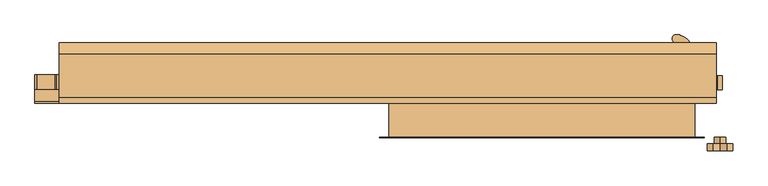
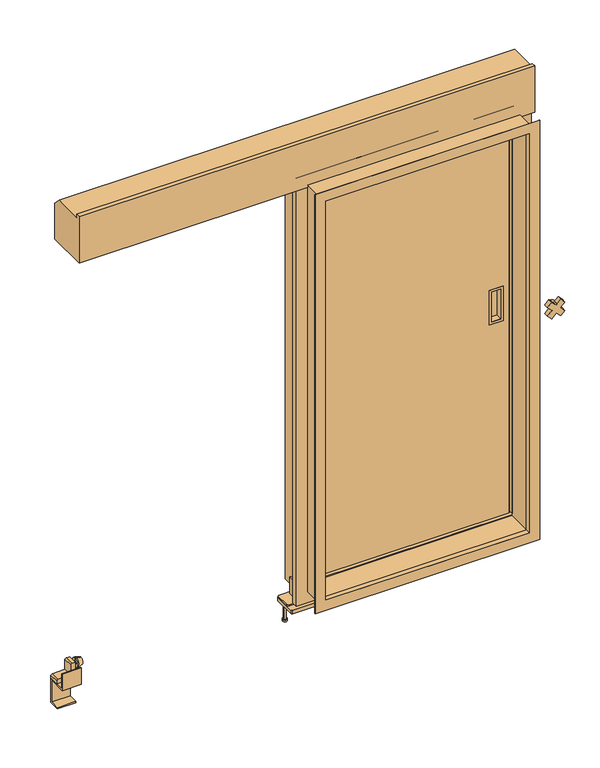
"""IFC4 building model written with IfcOpenShell, lengths in millimetres: door geometry, 冷凍_片引きスライドドア4方_手動 : W870xH1800xt100."""

from ifc_helpers import new_model, si_unit, point, frame, frame_2d, origin, place, context, project, spatial, polyline, circle_curve, trimmed, segment, composite_curve, outline, extrude, faceted_brep, source, transform, mapped, element, save
from ifc_brep_helpers import plane_surface, cylinder_surface, revolved_surface, advanced_brep


def door_233bc4a3(model_context):
    return source(origin(), model_context, "Body", "SolidModel", [
        faceted_brep([(470.0, 185.5, 1835.0), (-470.0, 185.5, 1835.0), (-470.0, 96.5, 1835.0), (470.0, 96.5, 1835.0), (470.0, 185.5, -35.0), (470.0, 96.5, -35.0), (-470.0, 96.5, -35.0), (-470.0, 185.5, -35.0), (-425.0, 96.5, 1790.0), (425.0, 96.5, 1790.0), (425.0, 96.5, 10.0), (-425.0, 96.5, 10.0), (-425.0, 85.5, 1790.0), (425.0, 85.5, 1790.0), (425.0, 85.5, 10.0), (-425.0, 85.5, 10.0), (350.500035, 85.5, 1033.0), (390.500035, 85.5, 1033.0), (390.500035, 85.5, 897.0), (350.500035, 85.5, 897.0), (350.500035, 113.5, 1033.0), (390.500035, 113.5, 1033.0), (350.500035, 113.5, 897.0), (390.500035, 113.5, 897.0)], [[[0, 1, 2, 3]], [[4, 5, 6, 7]], [[1, 0, 4, 7]], [[2, 1, 7, 6]], [[3, 2, 6, 5], [8, 9, 10, 11]], [[0, 3, 5, 4]], [[8, 12, 13, 9]], [[10, 14, 15, 11]], [[12, 8, 11, 15]], [[13, 12, 15, 14], [16, 17, 18, 19]], [[9, 13, 14, 10]], [[20, 21, 17, 16]], [[20, 16, 19, 22]], [[22, 19, 18, 23]], [[17, 21, 23, 18]], [[21, 20, 22, 23]]]),
        extrude(outline(polyline([(1042.0, 399.500035), (1042.0, 341.500035), (888.0, 341.500035), (888.0, 399.500035), (1042.0, 399.500035)]), holes=[polyline([(897.0, 390.500035), (897.0, 350.500035), (1033.0, 350.500035), (1033.0, 390.500035), (897.0, 390.500035)])]), frame((0.0, 83.499995, 0.0), z_axis=(0.0, 1.0, 0.0), x_axis=(0.0, 0.0, 1.0)), (0.0, 0.0, 1.0), 2.000005),
        extrude(outline(polyline([(101.49997, -69.99999), (89.49997, -57.99999), (89.49997, 5.00001), (139.5, 5.00001), (139.5, -69.99999), (101.49997, -69.99999)])), frame((-476.0, 0.0, 0.0), z_axis=(1.0, 0.0, 0.0), x_axis=(0.0, 1.0, 0.0)), (0.0, 0.0, 1.0), 6.0),
        extrude(outline(polyline([(101.5, -69.99999), (89.5, -57.99999), (89.5, 5.00001), (139.5, 5.00001), (139.5, -69.99999), (101.5, -69.99999)])), frame((470.0, 0.0, 0.0), z_axis=(1.0, 0.0, 0.0), x_axis=(0.0, 1.0, 0.0)), (0.0, 0.0, 1.0), 6.0),
        extrude(outline(polyline([(470.0, 131.50003), (470.0, 96.5), (-470.0, 96.5), (-470.0, 131.50003), (470.0, 131.50003)])), frame((0.0, 0.0, -69.99999), z_axis=(0.0, 0.0, 1.0), x_axis=(1.0, 0.0, 0.0)), (0.0, 0.0, 1.0), 34.99999),
        extrude(outline(polyline([(-462.9985861, 96.5), (462.9985861, 96.5), (462.9985861, 79.499345), (-462.9985861, 79.499345), (-462.9985861, 96.5)])), frame((0.0, 0.0, -25.0), z_axis=(0.0, 0.0, 1.0), x_axis=(1.0, 0.0, 0.0)), (0.0, 0.0, 1.0), 28.0),
        extrude(outline(polyline([(462.9985861, 77.0), (435.0014439, 77.0), (435.0014439, 96.5), (462.9985861, 96.5), (462.9985861, 77.0)])), frame((0.0, 0.0, 10.0), z_axis=(0.0, 0.0, 1.0), x_axis=(1.0, 0.0, 0.0)), (0.0, 0.0, 1.0), 1780.0),
        extrude(outline(polyline([(-462.9985861, 77.0), (-462.9985861, 96.5), (-435.0014439, 96.5), (-435.0014439, 77.0), (-462.9985861, 77.0)])), frame((0.0, 0.0, 10.0), z_axis=(0.0, 0.0, 1.0), x_axis=(1.0, 0.0, 0.0)), (0.0, 0.0, 1.0), 1780.0),
        extrude(outline(polyline([(462.9985861, 96.5), (462.9985861, 76.9116213), (-462.9985861, 76.9116213), (-462.9985861, 96.5), (462.9985861, 96.5)])), frame((0.0, 0.0, 1797.4986091), z_axis=(0.0, 0.0, 1.0), x_axis=(1.0, 0.0, 0.0)), (0.0, 0.0, 1.0), 28.0),
        extrude(outline(polyline([(-96.999374, 532.0), (-27.00937, 532.0), (-27.00229, 517.0), (-32.00275, 511.99999), (-77.00938, 511.99999), (-77.00689, 457.0), (-82.00735, 451.99999), (-97.00939, 451.99999), (-96.999374, 532.0)])), frame((0.0, 90.0, 0.0), z_axis=(0.0, 1.0, 0.0), x_axis=(0.0, 0.0, 1.0)), (0.0, 0.0, 1.0), 42.00225),
        extrude(outline(polyline([(1037.123106, 544.9454365), (1017.6776695, 525.5), (1037.123106, 506.0545635), (1019.4454365, 488.376894), (1000.0, 507.8223305), (980.5545635, 488.376894), (962.876894, 506.0545635), (982.3223305, 525.5), (962.876894, 544.9454365), (980.5545635, 562.623106), (1000.0, 543.1776695), (1019.4454365, 562.623106), (1037.123106, 544.9454365)])), frame((0.0, -90.0, 0.0), z_axis=(0.0, 1.0, 0.0), x_axis=(0.0, 0.0, 1.0)), (0.0, 0.0, 1.0), 20.0),
        extrude(outline(composite_curve([segment(trimmed(circle_curve(frame_2d((1000.0, 525.5)), 16.99999), [point((983.00001, 525.5))], [point((1016.99999, 525.5))], False, "CARTESIAN"), True, "CONTINUOUS"), segment(trimmed(circle_curve(frame_2d((1000.0, 525.5)), 16.99999), [point((1016.99999, 525.5))], [point((983.00001, 525.5))], False, "CARTESIAN"), True, "CONTINUOUS")], self_intersect=False)), frame((0.0, -70.0, 0.0), z_axis=(0.0, 1.0, 0.0), x_axis=(0.0, 0.0, 1.0)), (0.0, 0.0, 1.0), 20.0),
        advanced_brep(
        [(-1404.999995, 113.0, -58.99311), (-1404.999995, 113.0, -19.0), (-1404.999995, 113.0, -30.996555), (-1404.999995, 113.0, -46.996555), (-1400.999995, 113.0, -58.99311), (-1400.999995, 113.0, -19.0), (-1380.999995, 113.0, -53.9931073), (-1380.999995, 113.0, -24.0000027), (-1380.999995, 113.0, -38.996555), (-1416.99999, 113.0, -46.996555), (-1416.99999, 113.0, -30.996555), (-1416.99999, 113.0, -38.996555)],
        [
            (0, 1, circle_curve(frame((-1404.999995, 113.0, -38.996555), z_axis=(-1.0, 0.0, 0.0), x_axis=(0.0, 0.0, 1.0)), 19.996555)),
            (1, 2),
            (2, 3, circle_curve(frame((-1404.999995, 113.0, -38.996555), z_axis=(1.0, 0.0, 0.0), x_axis=(0.0, 0.0, 1.0)), 8.0)),
            (3, 0),
            (1, 0, circle_curve(frame((-1404.999995, 113.0, -38.996555), z_axis=(-1.0, 0.0, 0.0), x_axis=(0.0, 0.0, 1.0)), 19.996555)),
            (3, 2, circle_curve(frame((-1404.999995, 113.0, -38.996555), z_axis=(1.0, 0.0, 0.0), x_axis=(0.0, 0.0, 1.0)), 8.0)),
            (4, 5, circle_curve(frame((-1400.999995, 113.0, -38.996555), z_axis=(-1.0, 0.0, 0.0), x_axis=(0.0, 0.0, 1.0)), 19.996555)),
            (5, 1),
            (0, 4),
            (5, 4, circle_curve(frame((-1400.999995, 113.0, -38.996555), z_axis=(-1.0, 0.0, 0.0), x_axis=(0.0, 0.0, 1.0)), 19.996555)),
            (6, 7, circle_curve(frame((-1380.999995, 113.0, -38.996555), z_axis=(-1.0, 0.0, 0.0), x_axis=(0.0, 0.0, 1.0)), 14.9965523)),
            (7, 5),
            (4, 6),
            (7, 6, circle_curve(frame((-1380.999995, 113.0, -38.996555), z_axis=(-1.0, 0.0, 0.0), x_axis=(0.0, 0.0, 1.0)), 14.9965523)),
            (8, 7),
            (6, 8),
            (9, 10, circle_curve(frame((-1416.99999, 113.0, -38.996555), z_axis=(-1.0, 0.0, 0.0), x_axis=(0.0, 0.0, 1.0)), 8.0)),
            (10, 11),
            (11, 9),
            (10, 9, circle_curve(frame((-1416.99999, 113.0, -38.996555), z_axis=(-1.0, 0.0, 0.0), x_axis=(0.0, 0.0, 1.0)), 8.0)),
            (2, 10),
            (9, 3),
        ],
        [
            plane_surface(frame((-1404.999995, 113.0, -38.996555), z_axis=(-1.0, 0.0, 0.0), x_axis=(0.0, 0.0, 1.0))),
            cylinder_surface(frame((-1380.999995, 113.0, -38.996555), z_axis=(1.0, 0.0, 0.0), x_axis=(0.0, 0.0, 1.0)), 19.996555),
            revolved_surface(polyline([(-1400.999995, 113.0, -19.0), (-1380.999995, 113.0, -24.0000027)]), (-1380.999995, 113.0, -38.996555), (1.0, 0.0, 0.0)),
            plane_surface(frame((-1380.999995, 113.0, -38.996555), z_axis=(1.0, 0.0, 0.0), x_axis=(0.0, 0.0, 1.0))),
            plane_surface(frame((-1416.99999, 113.0, -38.996555), z_axis=(-1.0, 0.0, 0.0), x_axis=(0.0, 0.0, 1.0))),
            cylinder_surface(frame((-1380.999995, 113.0, -38.996555), z_axis=(1.0, 0.0, 0.0), x_axis=(0.0, 0.0, 1.0)), 8.0),
        ],
        [
            (0, [[1, 2, 3, 4]]),
            (0, [[5, -4, 6, -2]]),
            (1, [[7, 8, -1, 9]]),
            (1, [[10, -9, -5, -8]]),
            (2, [[11, 12, -7, 13]]),
            (2, [[14, -13, -10, -12]]),
            (3, [[15, -11, 16]]),
            (3, [[-16, -14, -15]]),
            (4, [[17, 18, 19]]),
            (4, [[20, -19, -18]]),
            (5, [[-3, 21, -17, 22]]),
            (5, [[-6, -22, -20, -21]]),
        ],
    ),
        extrude(outline(polyline([(-91.983954, -1416.99999), (-21.99395, -1416.99999), (-21.98687, -1431.99999), (-26.98733, -1437.0), (-71.99396, -1437.0), (-71.99147, -1491.99999), (-76.99193, -1497.0), (-91.99397, -1497.0), (-91.983954, -1416.99999)])), frame((0.0, 91.99775, 0.0), z_axis=(0.0, 1.0, 0.0), x_axis=(0.0, 0.0, 1.0)), (0.0, 0.0, 1.0), 42.00225),
        advanced_brep(
        [(499.999995, 111.0, -64.00853), (499.999995, 111.0, -24.01542), (499.999995, 111.0, -36.011975), (499.999995, 111.0, -52.011975), (495.999995, 111.0, -64.00853), (495.999995, 111.0, -24.01542), (475.999995, 111.0, -59.0085273), (475.999995, 111.0, -29.0154227), (475.999995, 111.0, -44.011975), (511.99999, 111.0, -52.011975), (511.99999, 111.0, -36.011975), (511.99999, 111.0, -44.011975)],
        [
            (0, 1, circle_curve(frame((499.999995, 111.0, -44.011975), z_axis=(1.0, 0.0, 0.0), x_axis=(0.0, 0.0, 1.0)), 19.996555)),
            (1, 2),
            (2, 3, circle_curve(frame((499.999995, 111.0, -44.011975), z_axis=(-1.0, 0.0, 0.0), x_axis=(0.0, 0.0, 1.0)), 8.0)),
            (3, 0),
            (1, 0, circle_curve(frame((499.999995, 111.0, -44.011975), z_axis=(1.0, 0.0, 0.0), x_axis=(0.0, 0.0, 1.0)), 19.996555)),
            (3, 2, circle_curve(frame((499.999995, 111.0, -44.011975), z_axis=(-1.0, 0.0, 0.0), x_axis=(0.0, 0.0, 1.0)), 8.0)),
            (4, 5, circle_curve(frame((495.999995, 111.0, -44.011975), z_axis=(1.0, 0.0, 0.0), x_axis=(0.0, 0.0, 1.0)), 19.996555)),
            (5, 1),
            (0, 4),
            (5, 4, circle_curve(frame((495.999995, 111.0, -44.011975), z_axis=(1.0, 0.0, 0.0), x_axis=(0.0, 0.0, 1.0)), 19.996555)),
            (6, 7, circle_curve(frame((475.999995, 111.0, -44.011975), z_axis=(1.0, 0.0, 0.0), x_axis=(0.0, 0.0, 1.0)), 14.9965523)),
            (7, 5),
            (4, 6),
            (7, 6, circle_curve(frame((475.999995, 111.0, -44.011975), z_axis=(1.0, 0.0, 0.0), x_axis=(0.0, 0.0, 1.0)), 14.9965523)),
            (8, 7),
            (6, 8),
            (9, 10, circle_curve(frame((511.99999, 111.0, -44.011975), z_axis=(1.0, 0.0, 0.0), x_axis=(0.0, 0.0, 1.0)), 8.0)),
            (10, 11),
            (11, 9),
            (10, 9, circle_curve(frame((511.99999, 111.0, -44.011975), z_axis=(1.0, 0.0, 0.0), x_axis=(0.0, 0.0, 1.0)), 8.0)),
            (2, 10),
            (9, 3),
        ],
        [
            plane_surface(frame((499.999995, 111.0, -44.011975), z_axis=(1.0, 0.0, 0.0), x_axis=(0.0, 0.0, 1.0))),
            cylinder_surface(frame((475.999995, 111.0, -44.011975), z_axis=(-1.0, 0.0, 0.0), x_axis=(0.0, 0.0, 1.0)), 19.996555),
            revolved_surface(polyline([(495.999995, 111.0, -24.01542), (475.999995, 111.0, -29.0154227)]), (475.999995, 111.0, -44.011975), (-1.0, 0.0, 0.0)),
            plane_surface(frame((475.999995, 111.0, -44.011975), z_axis=(-1.0, 0.0, 0.0), x_axis=(0.0, 0.0, 1.0))),
            plane_surface(frame((511.99999, 111.0, -44.011975), z_axis=(1.0, 0.0, 0.0), x_axis=(0.0, 0.0, 1.0))),
            cylinder_surface(frame((475.999995, 111.0, -44.011975), z_axis=(-1.0, 0.0, 0.0), x_axis=(0.0, 0.0, 1.0)), 8.0),
        ],
        [
            (0, [[1, 2, 3, 4]]),
            (0, [[5, -4, 6, -2]]),
            (1, [[7, 8, -1, 9]]),
            (1, [[10, -9, -5, -8]]),
            (2, [[11, 12, -7, 13]]),
            (2, [[14, -13, -10, -12]]),
            (3, [[15, -11, 16]]),
            (3, [[-16, -14, -15]]),
            (4, [[17, 18, 19]]),
            (4, [[20, -19, -18]]),
            (5, [[-3, 21, -17, 22]]),
            (5, [[-6, -22, -20, -21]]),
        ],
    ),
        extrude(outline(polyline([(228.5, 1968.0), (228.5, 1805.000385), (50.0, 1805.000385), (50.0, 2015.000355), (66.499875, 2015.000355), (66.499875, 2000.000305), (196.499695, 2000.000305), (228.5, 1968.0)])), frame((-1425.0, 0.0, 0.0), z_axis=(1.0, 0.0, 0.0), x_axis=(0.0, 1.0, 0.0)), (0.0, 0.0, 1.0), 1940.0),
        faceted_brep([(451.00103, 50.0, -16.00103), (451.00103, -50.0, -16.00103), (-451.00103, -50.0, -16.00103), (-451.00103, 50.0, -16.00103), (-451.00103, -50.0, 1816.00103), (-451.00103, 50.0, 1816.00103), (451.00103, -50.0, 1816.00103), (-435.0, -50.0, 1800.0), (435.0, -50.0, 1800.0), (435.0, -50.0, 0.0), (-435.0, -50.0, 0.0), (-500.0, 50.0, -65.0), (500.0, 50.0, -65.0), (500.0, 50.0, 1865.0), (-500.0, 50.0, 1865.0), (451.00103, 50.0, 1816.00103), (500.0, 77.0, -65.0), (-500.0, 77.0, -65.0), (-500.0, 77.0, 1865.0), (500.0, 77.0, 1865.0), (-435.0, 77.0, 0.0), (435.0, 77.0, 0.0), (435.0, 77.0, 1800.0), (-435.0, 77.0, 1800.0)], [[[0, 1, 2, 3]], [[3, 2, 4, 5]], [[2, 1, 6, 4], [7, 8, 9, 10]], [[11, 12, 13, 14], [5, 15, 0, 3]], [[16, 12, 11, 17]], [[17, 11, 14, 18]], [[18, 19, 16, 17], [20, 21, 22, 23]], [[9, 21, 20, 10]], [[10, 20, 23, 7]], [[15, 6, 1, 0]], [[19, 13, 12, 16]], [[8, 22, 21, 9]], [[5, 4, 6, 15]], [[18, 14, 13, 19]], [[7, 23, 22, 8]]]),
        faceted_brep([(479.0, -50.0, -44.0), (479.0, -51.2, -44.0), (-479.0, -51.2, -44.0), (-479.0, -50.0, -44.0), (-479.0, -51.2, 1844.0), (-479.0, -50.0, 1844.0), (479.0, -51.2, 1844.0), (-433.8, -51.2, 1798.8), (433.8, -51.2, 1798.8), (433.8, -51.2, 1.2), (-433.8, -51.2, 1.2), (479.0, -50.0, 1844.0), (-435.0, -50.0, 0.0), (435.0, -50.0, 0.0), (435.0, -50.0, 1800.0), (-435.0, -50.0, 1800.0), (435.0, -29.2, 0.0), (-435.0, -29.2, 0.0), (-435.0, -29.2, 1800.0), (435.0, -29.2, 1800.0), (-433.8, -29.2, 1.2), (433.8, -29.2, 1.2), (433.8, -29.2, 1798.8), (-433.8, -29.2, 1798.8)], [[[0, 1, 2, 3]], [[3, 2, 4, 5]], [[2, 1, 6, 4], [7, 8, 9, 10]], [[5, 11, 0, 3], [12, 13, 14, 15]], [[16, 13, 12, 17]], [[17, 12, 15, 18]], [[18, 19, 16, 17], [20, 21, 22, 23]], [[9, 21, 20, 10]], [[10, 20, 23, 7]], [[11, 6, 1, 0]], [[19, 14, 13, 16]], [[8, 22, 21, 9]], [[5, 4, 6, 11]], [[18, 15, 14, 19]], [[7, 23, 22, 8]]]),
        advanced_brep(
        [(408.6234406, 250.3571279, 745.0), (408.6234402, 230.6428419, 745.0), (404.50281, 229.499985, 745.0), (393.89726, 229.499985, 745.0), (389.7766295, 230.6428424, 745.0), (389.7766298, 250.3571281, 745.0), (393.89726, 251.499985, 745.0), (404.50281, 251.499985, 745.0), (408.6234406, 250.3571279, 1245.0), (408.6234402, 230.6428419, 1245.0), (404.50281, 229.499985, 1245.0), (393.89726, 229.499985, 1245.0), (389.7766295, 230.6428424, 1245.0), (389.7766298, 250.3571281, 1245.0), (393.89726, 251.499985, 1245.0), (404.50281, 251.499985, 1245.0)],
        [
            (0, 1, circle_curve(frame((402.700035, 240.499985, 745.0), z_axis=(0.0, 0.0, -1.0), x_axis=(0.0, -1.0, 0.0)), 11.5)),
            (1, 2, circle_curve(frame((404.50281, 237.499985, 745.0), z_axis=(0.0, 0.0, -1.0), x_axis=(0.0, -1.0, 0.0)), 8.0)),
            (2, 3),
            (3, 4, circle_curve(frame((393.89726, 237.499985, 745.0), z_axis=(0.0, 0.0, -1.0), x_axis=(0.0, -1.0, 0.0)), 8.0)),
            (4, 5, circle_curve(frame((395.700035, 240.499985, 745.0), z_axis=(0.0, 0.0, -1.0), x_axis=(0.0, -1.0, 0.0)), 11.5)),
            (5, 6, circle_curve(frame((393.89726, 243.499985, 745.0), z_axis=(0.0, 0.0, -1.0), x_axis=(0.0, -1.0, 0.0)), 8.0)),
            (6, 7),
            (7, 0, circle_curve(frame((404.50281, 243.499985, 745.0), z_axis=(0.0, 0.0, -1.0), x_axis=(0.0, -1.0, 0.0)), 8.0)),
            (8, 9, circle_curve(frame((402.700035, 240.499985, 1245.0), z_axis=(0.0, 0.0, -1.0), x_axis=(0.0, -1.0, 0.0)), 11.5)),
            (9, 1),
            (0, 8),
            (9, 10, circle_curve(frame((404.50281, 237.499985, 1245.0), z_axis=(0.0, 0.0, -1.0), x_axis=(0.0, -1.0, 0.0)), 8.0)),
            (10, 2),
            (10, 11),
            (11, 3),
            (11, 12, circle_curve(frame((393.89726, 237.499985, 1245.0), z_axis=(0.0, 0.0, -1.0), x_axis=(0.0, -1.0, 0.0)), 8.0)),
            (12, 4),
            (12, 13, circle_curve(frame((395.700035, 240.499985, 1245.0), z_axis=(0.0, 0.0, -1.0), x_axis=(0.0, -1.0, 0.0)), 11.5)),
            (13, 5),
            (13, 14, circle_curve(frame((393.89726, 243.499985, 1245.0), z_axis=(0.0, 0.0, -1.0), x_axis=(0.0, -1.0, 0.0)), 8.0)),
            (14, 6),
            (14, 15),
            (15, 7),
            (15, 8, circle_curve(frame((404.50281, 243.499985, 1245.0), z_axis=(0.0, 0.0, -1.0), x_axis=(0.0, -1.0, 0.0)), 8.0)),
        ],
        [
            plane_surface(frame((404.50281, 235.499985, 745.0), z_axis=(0.0, 0.0, -1.0), x_axis=(-1.0, 0.0, 0.0))),
            cylinder_surface(frame((402.700035, 240.499985, 745.0), z_axis=(0.0, 0.0, 1.0), x_axis=(0.0, -1.0, 0.0)), 11.5),
            cylinder_surface(frame((404.50281, 237.499985, 745.0), z_axis=(0.0, 0.0, 1.0), x_axis=(0.0, -1.0, 0.0)), 8.0),
            plane_surface(frame((393.89726, 229.499985, 1245.0), z_axis=(0.0, -1.0, 0.0), x_axis=(0.0, 0.0, -1.0))),
            cylinder_surface(frame((393.89726, 237.499985, 745.0), z_axis=(0.0, 0.0, 1.0), x_axis=(0.0, -1.0, 0.0)), 8.0),
            cylinder_surface(frame((395.700035, 240.499985, 745.0), z_axis=(0.0, 0.0, 1.0), x_axis=(0.0, -1.0, 0.0)), 11.5),
            cylinder_surface(frame((393.89726, 243.499985, 745.0), z_axis=(0.0, 0.0, 1.0), x_axis=(0.0, -1.0, 0.0)), 8.0),
            plane_surface(frame((404.50281, 251.499985, 1245.0), z_axis=(0.0, 1.0, 0.0), x_axis=(0.0, 0.0, -1.0))),
            cylinder_surface(frame((404.50281, 243.499985, 745.0), z_axis=(0.0, 0.0, 1.0), x_axis=(0.0, -1.0, 0.0)), 8.0),
            plane_surface(frame((404.50281, 235.499985, 1245.0), z_axis=(0.0, 0.0, 1.0), x_axis=(1.0, 0.0, 0.0))),
        ],
        [
            (0, [[1, 2, 3, 4, 5, 6, 7, 8]]),
            (1, [[9, 10, -1, 11]]),
            (2, [[12, 13, -2, -10]]),
            (3, [[14, 15, -3, -13]]),
            (4, [[16, 17, -4, -15]]),
            (5, [[18, 19, -5, -17]]),
            (6, [[20, 21, -6, -19]]),
            (7, [[22, 23, -7, -21]]),
            (8, [[24, -11, -8, -23]]),
            (9, [[-24, -22, -20, -18, -16, -14, -12, -9]]),
        ],
    ),
        extrude(outline(polyline([(50.0, -21.98687), (55.0, -21.98687), (55.0, -90.8065456), (134.0, -90.8065456), (134.0, -200.0), (87.0, -200.0), (87.0, -195.0), (129.0, -195.0), (129.0, -95.8065456), (50.0, -95.8065456), (50.0, -21.98687)])), frame((-1497.00001, 0.0, 0.0), z_axis=(1.0, 0.0, 0.0), x_axis=(0.0, 1.0, 0.0)), (0.0, 0.0, 1.0), 80.00001),
        advanced_brep(
        [(485.4995058, 160.5, -200.0), (495.4995058, 160.5, -200.0), (475.4995058, 160.5, -200.0), (480.4995058, 160.5, -115.0), (490.4995058, 160.5, -115.0), (485.4995058, 160.5, -115.0), (480.4995058, 160.5, -193.0), (490.4995058, 160.5, -193.0), (475.4995058, 160.5, -193.0), (495.4995058, 160.5, -193.0)],
        [
            (0, 1),
            (1, 2, circle_curve(frame((485.4995058, 160.5, -200.0), z_axis=(0.0, 0.0, -1.0), x_axis=(1.0, 0.0, 0.0)), 10.0)),
            (2, 0),
            (2, 1, circle_curve(frame((485.4995058, 160.5, -200.0), z_axis=(0.0, 0.0, -1.0), x_axis=(1.0, 0.0, 0.0)), 10.0)),
            (3, 4, circle_curve(frame((485.4995058, 160.5, -115.0), z_axis=(0.0, 0.0, 1.0), x_axis=(1.0, 0.0, 0.0)), 5.0)),
            (4, 5),
            (5, 3),
            (4, 3, circle_curve(frame((485.4995058, 160.5, -115.0), z_axis=(0.0, 0.0, 1.0), x_axis=(1.0, 0.0, 0.0)), 5.0)),
            (6, 7, circle_curve(frame((485.4995058, 160.5, -193.0), z_axis=(0.0, 0.0, 1.0), x_axis=(1.0, 0.0, 0.0)), 5.0)),
            (7, 4),
            (3, 6),
            (7, 6, circle_curve(frame((485.4995058, 160.5, -193.0), z_axis=(0.0, 0.0, 1.0), x_axis=(1.0, 0.0, 0.0)), 5.0)),
            (8, 9, circle_curve(frame((485.4995058, 160.5, -193.0), z_axis=(0.0, 0.0, 1.0), x_axis=(1.0, 0.0, 0.0)), 10.0)),
            (9, 7),
            (6, 8),
            (9, 8, circle_curve(frame((485.4995058, 160.5, -193.0), z_axis=(0.0, 0.0, 1.0), x_axis=(1.0, 0.0, 0.0)), 10.0)),
            (1, 9),
            (8, 2),
        ],
        [
            plane_surface(frame((485.4995058, 160.5, -200.0), z_axis=(0.0, 0.0, -1.0), x_axis=(1.0, 0.0, 0.0))),
            plane_surface(frame((485.4995058, 160.5, -115.0), z_axis=(0.0, 0.0, 1.0), x_axis=(1.0, 0.0, 0.0))),
            cylinder_surface(frame((485.4995058, 160.5, -68.5237768), z_axis=(0.0, 0.0, -1.0), x_axis=(1.0, 0.0, 0.0)), 5.0),
            plane_surface(frame((485.4995058, 160.5, -193.0), z_axis=(0.0, 0.0, 1.0), x_axis=(1.0, 0.0, 0.0))),
            cylinder_surface(frame((485.4995058, 160.5, -68.5237768), z_axis=(0.0, 0.0, -1.0), x_axis=(1.0, 0.0, 0.0)), 10.0),
        ],
        [
            (0, [[1, 2, 3]]),
            (0, [[-3, 4, -1]]),
            (1, [[5, 6, 7]]),
            (1, [[8, -7, -6]]),
            (2, [[9, 10, -5, 11]]),
            (2, [[12, -11, -8, -10]]),
            (3, [[13, 14, -9, 15]]),
            (3, [[16, -15, -12, -14]]),
            (4, [[-2, 17, -13, 18]]),
            (4, [[-4, -18, -16, -17]]),
        ],
    ),
        advanced_brep(
        [(-475.5, 160.5, -193.0), (-495.5, 160.5, -193.0), (-495.5, 160.5, -200.0), (-475.5, 160.5, -200.0), (-480.5, 160.5, -193.0), (-490.5, 160.5, -193.0), (-480.5, 160.5, -115.0), (-490.5, 160.5, -115.0), (-485.5, 160.5, -115.0), (-485.5, 160.5, -200.0)],
        [
            (0, 1, circle_curve(frame((-485.5, 160.5, -193.0), z_axis=(0.0, 0.0, -1.0), x_axis=(-1.0, 0.0, 0.0)), 10.0)),
            (1, 2),
            (2, 3, circle_curve(frame((-485.5, 160.5, -200.0), z_axis=(0.0, 0.0, 1.0), x_axis=(-1.0, 0.0, 0.0)), 10.0)),
            (3, 0),
            (1, 0, circle_curve(frame((-485.5, 160.5, -193.0), z_axis=(0.0, 0.0, -1.0), x_axis=(-1.0, 0.0, 0.0)), 10.0)),
            (3, 2, circle_curve(frame((-485.5, 160.5, -200.0), z_axis=(0.0, 0.0, 1.0), x_axis=(-1.0, 0.0, 0.0)), 10.0)),
            (4, 5, circle_curve(frame((-485.5, 160.5, -193.0), z_axis=(0.0, 0.0, -1.0), x_axis=(-1.0, 0.0, 0.0)), 5.0)),
            (5, 1),
            (0, 4),
            (5, 4, circle_curve(frame((-485.5, 160.5, -193.0), z_axis=(0.0, 0.0, -1.0), x_axis=(-1.0, 0.0, 0.0)), 5.0)),
            (6, 7, circle_curve(frame((-485.5, 160.5, -115.0), z_axis=(0.0, 0.0, -1.0), x_axis=(-1.0, 0.0, 0.0)), 5.0)),
            (7, 5),
            (4, 6),
            (7, 6, circle_curve(frame((-485.5, 160.5, -115.0), z_axis=(0.0, 0.0, -1.0), x_axis=(-1.0, 0.0, 0.0)), 5.0)),
            (8, 7),
            (6, 8),
            (2, 9),
            (9, 3),
        ],
        [
            cylinder_surface(frame((-485.5, 160.5, -74.0), z_axis=(0.0, 0.0, 1.0), x_axis=(-1.0, 0.0, 0.0)), 10.0),
            plane_surface(frame((-485.5, 160.5, -193.0), z_axis=(0.0, 0.0, 1.0), x_axis=(-1.0, 0.0, 0.0))),
            cylinder_surface(frame((-485.5, 160.5, -74.0), z_axis=(0.0, 0.0, 1.0), x_axis=(-1.0, 0.0, 0.0)), 5.0),
            plane_surface(frame((-485.5, 160.5, -115.0), z_axis=(0.0, 0.0, 1.0), x_axis=(-1.0, 0.0, 0.0))),
            plane_surface(frame((-485.5, 160.5, -200.0), z_axis=(0.0, 0.0, -1.0), x_axis=(-1.0, 0.0, 0.0))),
        ],
        [
            (0, [[1, 2, 3, 4]]),
            (0, [[5, -4, 6, -2]]),
            (1, [[7, 8, -1, 9]]),
            (1, [[10, -9, -5, -8]]),
            (2, [[11, 12, -7, 13]]),
            (2, [[14, -13, -10, -12]]),
            (3, [[15, -11, 16]]),
            (3, [[-16, -14, -15]]),
            (4, [[-3, 17, 18]]),
            (4, [[-6, -18, -17]]),
        ],
    ),
        advanced_brep(
        [(444.0, 160.5, -94.0), (464.0, 160.5, -94.0), (464.0, 160.5, -66.0), (444.0, 160.5, -66.0), (468.0116051, 160.5, -66.0), (439.9883949, 160.5, -66.0), (468.0116051, 160.5, -41.0), (439.9883949, 160.5, -41.0), (454.0, 160.5, -41.0), (454.0, 160.5, -94.0)],
        [
            (0, 1, circle_curve(frame((454.0, 160.5, -94.0), z_axis=(0.0, 0.0, 1.0), x_axis=(1.0, 0.0, 0.0)), 10.0)),
            (1, 2),
            (2, 3, circle_curve(frame((454.0, 160.5, -66.0), z_axis=(0.0, 0.0, -1.0), x_axis=(1.0, 0.0, 0.0)), 10.0)),
            (3, 0),
            (1, 0, circle_curve(frame((454.0, 160.5, -94.0), z_axis=(0.0, 0.0, 1.0), x_axis=(1.0, 0.0, 0.0)), 10.0)),
            (3, 2, circle_curve(frame((454.0, 160.5, -66.0), z_axis=(0.0, 0.0, -1.0), x_axis=(1.0, 0.0, 0.0)), 10.0)),
            (2, 4),
            (4, 5, circle_curve(frame((454.0, 160.5, -66.0), z_axis=(0.0, 0.0, -1.0), x_axis=(1.0, 0.0, 0.0)), 14.0116051)),
            (5, 3),
            (5, 4, circle_curve(frame((454.0, 160.5, -66.0), z_axis=(0.0, 0.0, -1.0), x_axis=(1.0, 0.0, 0.0)), 14.0116051)),
            (4, 6),
            (6, 7, circle_curve(frame((454.0, 160.5, -41.0), z_axis=(0.0, 0.0, -1.0), x_axis=(1.0, 0.0, 0.0)), 14.0116051)),
            (7, 5),
            (7, 6, circle_curve(frame((454.0, 160.5, -41.0), z_axis=(0.0, 0.0, -1.0), x_axis=(1.0, 0.0, 0.0)), 14.0116051)),
            (6, 8),
            (8, 7),
            (9, 1),
            (0, 9),
        ],
        [
            cylinder_surface(frame((454.0, 160.5, -26.4160597), z_axis=(0.0, 0.0, -1.0), x_axis=(1.0, 0.0, 0.0)), 10.0),
            plane_surface(frame((454.0, 160.5, -66.0), z_axis=(0.0, 0.0, -1.0), x_axis=(1.0, 0.0, 0.0))),
            cylinder_surface(frame((454.0, 160.5, -26.4160597), z_axis=(0.0, 0.0, -1.0), x_axis=(1.0, 0.0, 0.0)), 14.0116051),
            plane_surface(frame((454.0, 160.5, -41.0), z_axis=(0.0, 0.0, 1.0), x_axis=(1.0, 0.0, 0.0))),
            plane_surface(frame((454.0, 160.5, -94.0), z_axis=(0.0, 0.0, -1.0), x_axis=(1.0, 0.0, 0.0))),
        ],
        [
            (0, [[1, 2, 3, 4]]),
            (0, [[5, -4, 6, -2]]),
            (1, [[-3, 7, 8, 9]]),
            (1, [[-6, -9, 10, -7]]),
            (2, [[-8, 11, 12, 13]]),
            (2, [[-10, -13, 14, -11]]),
            (3, [[-12, 15, 16]]),
            (3, [[-14, -16, -15]]),
            (4, [[17, -1, 18]]),
            (4, [[-18, -5, -17]]),
        ],
    ),
        advanced_brep(
        [(-444.0, 127.5, -66.0), (-464.0, 127.5, -66.0), (-464.0, 127.5, -94.0), (-444.0, 127.5, -94.0), (-439.9883949, 127.5, -66.0), (-468.0116051, 127.5, -66.0), (-439.9883949, 127.5, -41.0), (-468.0116051, 127.5, -41.0), (-454.0, 127.5, -41.0), (-454.0, 127.5, -94.0)],
        [
            (0, 1, circle_curve(frame((-454.0, 127.5, -66.0), z_axis=(0.0, 0.0, -1.0), x_axis=(-1.0, 0.0, 0.0)), 10.0)),
            (1, 2),
            (2, 3, circle_curve(frame((-454.0, 127.5, -94.0), z_axis=(0.0, 0.0, 1.0), x_axis=(-1.0, 0.0, 0.0)), 10.0)),
            (3, 0),
            (1, 0, circle_curve(frame((-454.0, 127.5, -66.0), z_axis=(0.0, 0.0, -1.0), x_axis=(-1.0, 0.0, 0.0)), 10.0)),
            (3, 2, circle_curve(frame((-454.0, 127.5, -94.0), z_axis=(0.0, 0.0, 1.0), x_axis=(-1.0, 0.0, 0.0)), 10.0)),
            (4, 5, circle_curve(frame((-454.0, 127.5, -66.0), z_axis=(0.0, 0.0, -1.0), x_axis=(-1.0, 0.0, 0.0)), 14.0116051)),
            (5, 1),
            (0, 4),
            (5, 4, circle_curve(frame((-454.0, 127.5, -66.0), z_axis=(0.0, 0.0, -1.0), x_axis=(-1.0, 0.0, 0.0)), 14.0116051)),
            (6, 7, circle_curve(frame((-454.0, 127.5, -41.0), z_axis=(0.0, 0.0, -1.0), x_axis=(-1.0, 0.0, 0.0)), 14.0116051)),
            (7, 5),
            (4, 6),
            (7, 6, circle_curve(frame((-454.0, 127.5, -41.0), z_axis=(0.0, 0.0, -1.0), x_axis=(-1.0, 0.0, 0.0)), 14.0116051)),
            (8, 7),
            (6, 8),
            (2, 9),
            (9, 3),
        ],
        [
            cylinder_surface(frame((-454.0, 127.5, -26.4160597), z_axis=(0.0, 0.0, 1.0), x_axis=(-1.0, 0.0, 0.0)), 10.0),
            plane_surface(frame((-454.0, 127.5, -66.0), z_axis=(0.0, 0.0, -1.0), x_axis=(-1.0, 0.0, 0.0))),
            cylinder_surface(frame((-454.0, 127.5, -26.4160597), z_axis=(0.0, 0.0, 1.0), x_axis=(-1.0, 0.0, 0.0)), 14.0116051),
            plane_surface(frame((-454.0, 127.5, -41.0), z_axis=(0.0, 0.0, 1.0), x_axis=(-1.0, 0.0, 0.0))),
            plane_surface(frame((-454.0, 127.5, -94.0), z_axis=(0.0, 0.0, -1.0), x_axis=(-1.0, 0.0, 0.0))),
        ],
        [
            (0, [[1, 2, 3, 4]]),
            (0, [[5, -4, 6, -2]]),
            (1, [[7, 8, -1, 9]]),
            (1, [[10, -9, -5, -8]]),
            (2, [[11, 12, -7, 13]]),
            (2, [[14, -13, -10, -12]]),
            (3, [[15, -11, 16]]),
            (3, [[-16, -14, -15]]),
            (4, [[-3, 17, 18]]),
            (4, [[-6, -18, -17]]),
        ],
    ),
        extrude(outline(composite_curve([segment(trimmed(circle_curve(frame_2d((-499.5, 113.5)), 5.0), [point((-499.5, 108.5))], [point((-504.5, 113.5))], False, "CARTESIAN"), True, "CONTINUOUS"), segment(polyline([(-504.5, 113.5), (-504.5, 174.5)]), True, "CONTINUOUS"), segment(trimmed(circle_curve(frame_2d((-499.5, 174.5)), 5.0), [point((-504.5, 174.5))], [point((-499.5, 179.5))], False, "CARTESIAN"), True, "CONTINUOUS"), segment(polyline([(-499.5, 179.5), (-438.5, 179.5)]), True, "CONTINUOUS"), segment(trimmed(circle_curve(frame_2d((-438.5, 174.5)), 5.0), [point((-438.5, 179.5))], [point((-433.5, 174.5))], False, "CARTESIAN"), True, "CONTINUOUS"), segment(polyline([(-433.5, 174.5), (-433.5, 113.5)]), True, "CONTINUOUS"), segment(trimmed(circle_curve(frame_2d((-438.5, 113.5)), 5.0), [point((-433.5, 113.5))], [point((-438.5, 108.5))], False, "CARTESIAN"), True, "CONTINUOUS"), segment(polyline([(-438.5, 108.5), (-499.5, 108.5)]), True, "CONTINUOUS")], self_intersect=False)), frame((0.0, 0.0, -100.0), z_axis=(0.0, 0.0, 1.0), x_axis=(1.0, 0.0, 0.0)), (0.0, 0.0, 1.0), 6.0),
        extrude(outline(composite_curve([segment(polyline([(-500.0, 182.0), (-404.0, 182.0)]), True, "CONTINUOUS"), segment(trimmed(circle_curve(frame_2d((-404.0, 177.0)), 5.0), [point((-404.0, 182.0))], [point((-399.0, 177.0))], False, "CARTESIAN"), True, "CONTINUOUS"), segment(polyline([(-399.0, 177.0), (-399.0, 82.0)]), True, "CONTINUOUS"), segment(trimmed(circle_curve(frame_2d((-404.0, 82.0)), 5.0), [point((-399.0, 82.0))], [point((-404.0, 77.0))], False, "CARTESIAN"), True, "CONTINUOUS"), segment(polyline([(-404.0, 77.0), (-500.0, 77.0)]), True, "CONTINUOUS"), segment(trimmed(circle_curve(frame_2d((-500.0, 82.0)), 5.0), [point((-500.0, 77.0))], [point((-505.0, 82.0))], False, "CARTESIAN"), True, "CONTINUOUS"), segment(polyline([(-505.0, 82.0), (-505.0, 177.0)]), True, "CONTINUOUS"), segment(trimmed(circle_curve(frame_2d((-500.0, 177.0)), 5.0), [point((-505.0, 177.0))], [point((-500.0, 182.0))], False, "CARTESIAN"), True, "CONTINUOUS")], self_intersect=False)), frame((0.0, 0.0, -115.0), z_axis=(0.0, 0.0, 1.0), x_axis=(1.0, 0.0, 0.0)), (0.0, 0.0, 1.0), 15.0),
        extrude(outline(composite_curve([segment(polyline([(499.5, 108.5), (438.5, 108.5)]), True, "CONTINUOUS"), segment(trimmed(circle_curve(frame_2d((438.5, 113.5)), 5.0), [point((438.5, 108.5))], [point((433.5, 113.5))], False, "CARTESIAN"), True, "CONTINUOUS"), segment(polyline([(433.5, 113.5), (433.5, 174.5)]), True, "CONTINUOUS"), segment(trimmed(circle_curve(frame_2d((438.5, 174.5)), 5.0), [point((433.5, 174.5))], [point((438.5, 179.5))], False, "CARTESIAN"), True, "CONTINUOUS"), segment(polyline([(438.5, 179.5), (499.5, 179.5)]), True, "CONTINUOUS"), segment(trimmed(circle_curve(frame_2d((499.5, 174.5)), 5.0), [point((499.5, 179.5))], [point((504.5, 174.5))], False, "CARTESIAN"), True, "CONTINUOUS"), segment(polyline([(504.5, 174.5), (504.5, 113.5)]), True, "CONTINUOUS"), segment(trimmed(circle_curve(frame_2d((499.5, 113.5)), 5.0), [point((504.5, 113.5))], [point((499.5, 108.5))], False, "CARTESIAN"), True, "CONTINUOUS")], self_intersect=False)), frame((0.0, 0.0, -100.0), z_axis=(0.0, 0.0, 1.0), x_axis=(1.0, 0.0, 0.0)), (0.0, 0.0, 1.0), 6.0),
        extrude(outline(composite_curve([segment(trimmed(circle_curve(frame_2d((500.0, 177.0)), 5.0), [point((500.0, 182.0))], [point((505.0, 177.0))], False, "CARTESIAN"), True, "CONTINUOUS"), segment(polyline([(505.0, 177.0), (505.0, 82.0)]), True, "CONTINUOUS"), segment(trimmed(circle_curve(frame_2d((500.0, 82.0)), 5.0), [point((505.0, 82.0))], [point((500.0, 77.0))], False, "CARTESIAN"), True, "CONTINUOUS"), segment(polyline([(500.0, 77.0), (404.0, 77.0)]), True, "CONTINUOUS"), segment(trimmed(circle_curve(frame_2d((404.0, 82.0)), 5.0), [point((404.0, 77.0))], [point((399.0, 82.0))], False, "CARTESIAN"), True, "CONTINUOUS"), segment(polyline([(399.0, 82.0), (399.0, 177.0)]), True, "CONTINUOUS"), segment(trimmed(circle_curve(frame_2d((404.0, 177.0)), 5.0), [point((399.0, 177.0))], [point((404.0, 182.0))], False, "CARTESIAN"), True, "CONTINUOUS"), segment(polyline([(404.0, 182.0), (500.0, 182.0)]), True, "CONTINUOUS")], self_intersect=False)), frame((0.0, 0.0, -115.0), z_axis=(0.0, 0.0, 1.0), x_axis=(1.0, 0.0, 0.0)), (0.0, 0.0, 1.0), 15.0),
        advanced_brep(
        [(393.89726, 251.499985, 725.0), (405.9684363, 251.499985, 725.0), (406.9851731, 251.322439, 725.0), (450.0081033, 206.5570327, 725.0), (451.4023369, 197.5176673, 725.0), (451.4023369, 185.5, 725.0), (408.600035, 185.5, 725.0), (408.600035, 205.0779954, 725.0), (398.0156732, 229.499985, 725.0), (393.89726, 229.499985, 725.0), (389.7766295, 230.6428424, 725.0), (389.7766298, 250.3571281, 725.0), (393.89726, 251.499985, 745.0), (389.77663, 250.3571279, 745.0), (389.7766294, 230.6428421, 745.0), (393.89726, 229.499985, 745.0), (398.0156732, 229.499985, 745.0), (408.600035, 205.0779954, 745.0), (408.600035, 185.5, 745.0), (451.4023369, 185.5, 745.0), (451.4023369, 197.5176673, 745.0), (450.0081033, 206.5570327, 745.0), (406.9851731, 251.322439, 745.0), (405.9684363, 251.499985, 745.0)],
        [
            (0, 1),
            (1, 2, circle_curve(frame((405.9684363, 248.499985, 725.0), z_axis=(0.0, 0.0, -1.0), x_axis=(0.0, -1.0, 0.0)), 3.0)),
            (2, 3, circle_curve(frame((383.261315, 185.46518, 725.0), z_axis=(0.0, 0.0, -1.0), x_axis=(0.0, -1.0, 0.0)), 70.0)),
            (3, 4, circle_curve(frame((421.4023369, 197.5176673, 725.0), z_axis=(0.0, 0.0, -1.0), x_axis=(0.0, -1.0, 0.0)), 30.0)),
            (4, 5),
            (5, 6),
            (6, 7),
            (7, 8, circle_curve(frame((375.1326278, 205.0779954, 725.0), z_axis=(0.0, 0.0, 1.0), x_axis=(0.0, -1.0, 0.0)), 33.4674072)),
            (8, 9),
            (9, 10, circle_curve(frame((393.89726, 237.499985, 725.0), z_axis=(0.0, 0.0, -1.0), x_axis=(0.0, -1.0, 0.0)), 8.0)),
            (10, 11, circle_curve(frame((395.700035, 240.499985, 725.0), z_axis=(0.0, 0.0, -1.0), x_axis=(0.0, -1.0, 0.0)), 11.5)),
            (11, 0, circle_curve(frame((393.89726, 243.499985, 725.0), z_axis=(0.0, 0.0, -1.0), x_axis=(0.0, -1.0, 0.0)), 8.0)),
            (12, 13, circle_curve(frame((393.89726, 243.499985, 745.0), z_axis=(0.0, 0.0, 1.0), x_axis=(0.0, -1.0, 0.0)), 8.0)),
            (13, 14, circle_curve(frame((395.700035, 240.499985, 745.0), z_axis=(0.0, 0.0, 1.0), x_axis=(0.0, -1.0, 0.0)), 11.5)),
            (14, 15, circle_curve(frame((393.89726, 237.499985, 745.0), z_axis=(0.0, 0.0, 1.0), x_axis=(0.0, -1.0, 0.0)), 8.0)),
            (15, 16),
            (16, 17, circle_curve(frame((375.1326278, 205.0779954, 745.0), z_axis=(0.0, 0.0, -1.0), x_axis=(0.0, -1.0, 0.0)), 33.4674072)),
            (17, 18),
            (18, 19),
            (19, 20),
            (20, 21, circle_curve(frame((421.4023369, 197.5176673, 745.0), z_axis=(0.0, 0.0, 1.0), x_axis=(0.0, -1.0, 0.0)), 30.0)),
            (21, 22, circle_curve(frame((383.261315, 185.46518, 745.0), z_axis=(0.0, 0.0, 1.0), x_axis=(0.0, -1.0, 0.0)), 70.0)),
            (22, 23, circle_curve(frame((405.9684363, 248.499985, 745.0), z_axis=(0.0, 0.0, 1.0), x_axis=(0.0, -1.0, 0.0)), 3.0)),
            (23, 12),
            (23, 1),
            (0, 12),
            (11, 13),
            (10, 14),
            (9, 15),
            (8, 16),
            (17, 7),
            (6, 18),
            (5, 19),
            (4, 20),
            (3, 21),
            (2, 22),
        ],
        [
            plane_surface(frame((393.89726, 235.499985, 725.0), z_axis=(0.0, 0.0, -1.0), x_axis=(-1.0, 0.0, 0.0))),
            plane_surface(frame((393.89726, 235.499985, 745.0), z_axis=(0.0, 0.0, 1.0), x_axis=(1.0, 0.0, 0.0))),
            plane_surface(frame((405.9684363, 251.499985, 745.0), z_axis=(0.0, 1.0, 0.0), x_axis=(0.0, 0.0, -1.0))),
            cylinder_surface(frame((393.89726, 243.499985, 725.0), z_axis=(0.0, 0.0, 1.0), x_axis=(0.0, -1.0, 0.0)), 8.0),
            cylinder_surface(frame((395.700035, 240.499985, 725.0), z_axis=(0.0, 0.0, 1.0), x_axis=(0.0, -1.0, 0.0)), 11.5),
            cylinder_surface(frame((393.89726, 237.499985, 725.0), z_axis=(0.0, 0.0, 1.0), x_axis=(0.0, -1.0, 0.0)), 8.0),
            plane_surface(frame((393.89726, 229.499985, 745.0), z_axis=(0.0, -1.0, 0.0), x_axis=(0.0, 0.0, -1.0))),
            plane_surface(frame((408.600035, 205.0779954, 745.0), z_axis=(-1.0, 0.0, 0.0), x_axis=(0.0, 0.0, -1.0))),
            plane_surface(frame((408.600035, 185.5, 745.0), z_axis=(0.0, -1.0, 0.0), x_axis=(0.0, 0.0, -1.0))),
            plane_surface(frame((451.4023369, 185.5, 745.0), z_axis=(1.0, 0.0, 0.0), x_axis=(0.0, 0.0, -1.0))),
            cylinder_surface(frame((421.4023369, 197.5176673, 725.0), z_axis=(0.0, 0.0, 1.0), x_axis=(0.0, -1.0, 0.0)), 30.0),
            cylinder_surface(frame((383.261315, 185.46518, 725.0), z_axis=(0.0, 0.0, 1.0), x_axis=(0.0, -1.0, 0.0)), 70.0),
            cylinder_surface(frame((405.9684363, 248.499985, 725.0), z_axis=(0.0, 0.0, 1.0), x_axis=(0.0, -1.0, 0.0)), 3.0),
            revolved_surface(polyline([(375.1326278, 171.6105882, 725.0), (375.1326278, 171.6105882, 745.0)]), (375.1326278, 205.0779954, 725.0), (0.0, 0.0, -1.0)),
        ],
        [
            (0, [[1, 2, 3, 4, 5, 6, 7, 8, 9, 10, 11, 12]]),
            (1, [[13, 14, 15, 16, 17, 18, 19, 20, 21, 22, 23, 24]]),
            (2, [[-24, 25, -1, 26]]),
            (3, [[-13, -26, -12, 27]]),
            (4, [[-14, -27, -11, 28]]),
            (5, [[-15, -28, -10, 29]]),
            (6, [[-16, -29, -9, 30]]),
            (7, [[-18, 31, -7, 32]]),
            (8, [[-19, -32, -6, 33]]),
            (9, [[-20, -33, -5, 34]]),
            (10, [[-21, -34, -4, 35]]),
            (11, [[-22, -35, -3, 36]]),
            (12, [[-23, -36, -2, -25]]),
            (13, [[-17, -30, -8, -31]]),
        ],
    ),
        advanced_brep(
        [(393.89726, 251.499985, 1265.0), (389.77663, 250.3571279, 1265.0), (389.7766294, 230.6428421, 1265.0), (393.89726, 229.499985, 1265.0), (398.0156732, 229.499985, 1265.0), (408.600035, 205.0779954, 1265.0), (408.600035, 185.5, 1265.0), (451.4023369, 185.5, 1265.0), (451.4023369, 197.5176673, 1265.0), (450.0081033, 206.5570327, 1265.0), (406.9851731, 251.322439, 1265.0), (405.9684363, 251.499985, 1265.0), (393.89726, 251.499985, 1244.99999), (405.9684363, 251.499985, 1244.99999), (406.9851731, 251.322439, 1244.99999), (450.0081033, 206.5570327, 1244.99999), (451.4023369, 197.5176673, 1244.99999), (451.4023369, 185.5, 1244.99999), (408.600035, 185.5, 1244.99999), (408.600035, 205.0779954, 1244.99999), (398.0156732, 229.499985, 1244.99999), (393.89726, 229.499985, 1244.99999), (389.7766295, 230.6428424, 1244.99999), (389.7766298, 250.3571281, 1244.99999)],
        [
            (0, 1, circle_curve(frame((393.89726, 243.499985, 1265.0), z_axis=(0.0, 0.0, 1.0), x_axis=(0.0, -1.0, 0.0)), 8.0)),
            (1, 2, circle_curve(frame((395.700035, 240.499985, 1265.0), z_axis=(0.0, 0.0, 1.0), x_axis=(0.0, -1.0, 0.0)), 11.5)),
            (2, 3, circle_curve(frame((393.89726, 237.499985, 1265.0), z_axis=(0.0, 0.0, 1.0), x_axis=(0.0, -1.0, 0.0)), 8.0)),
            (3, 4),
            (4, 5, circle_curve(frame((375.1326278, 205.0779954, 1265.0), z_axis=(0.0, 0.0, -1.0), x_axis=(0.0, -1.0, 0.0)), 33.4674072)),
            (5, 6),
            (6, 7),
            (7, 8),
            (8, 9, circle_curve(frame((421.4023369, 197.5176673, 1265.0), z_axis=(0.0, 0.0, 1.0), x_axis=(0.0, -1.0, 0.0)), 30.0)),
            (9, 10, circle_curve(frame((383.261315, 185.46518, 1265.0), z_axis=(0.0, 0.0, 1.0), x_axis=(0.0, -1.0, 0.0)), 70.0)),
            (10, 11, circle_curve(frame((405.9684363, 248.499985, 1265.0), z_axis=(0.0, 0.0, 1.0), x_axis=(0.0, -1.0, 0.0)), 3.0)),
            (11, 0),
            (12, 13),
            (13, 14, circle_curve(frame((405.9684363, 248.499985, 1244.99999), z_axis=(0.0, 0.0, -1.0), x_axis=(0.0, -1.0, 0.0)), 3.0)),
            (14, 15, circle_curve(frame((383.261315, 185.46518, 1244.99999), z_axis=(0.0, 0.0, -1.0), x_axis=(0.0, -1.0, 0.0)), 70.0)),
            (15, 16, circle_curve(frame((421.4023369, 197.5176673, 1244.99999), z_axis=(0.0, 0.0, -1.0), x_axis=(0.0, -1.0, 0.0)), 30.0)),
            (16, 17),
            (17, 18),
            (18, 19),
            (19, 20, circle_curve(frame((375.1326278, 205.0779954, 1244.99999), z_axis=(0.0, 0.0, 1.0), x_axis=(0.0, -1.0, 0.0)), 33.4674072)),
            (20, 21),
            (21, 22, circle_curve(frame((393.89726, 237.499985, 1244.99999), z_axis=(0.0, 0.0, -1.0), x_axis=(0.0, -1.0, 0.0)), 8.0)),
            (22, 23, circle_curve(frame((395.700035, 240.499985, 1244.99999), z_axis=(0.0, 0.0, -1.0), x_axis=(0.0, -1.0, 0.0)), 11.5)),
            (23, 12, circle_curve(frame((393.89726, 243.499985, 1244.99999), z_axis=(0.0, 0.0, -1.0), x_axis=(0.0, -1.0, 0.0)), 8.0)),
            (11, 13),
            (12, 0),
            (23, 1),
            (22, 2),
            (21, 3),
            (20, 4),
            (5, 19),
            (18, 6),
            (17, 7),
            (16, 8),
            (15, 9),
            (14, 10),
        ],
        [
            plane_surface(frame((393.89726, 235.499985, 1265.0), z_axis=(0.0, 0.0, 1.0), x_axis=(1.0, 0.0, 0.0))),
            plane_surface(frame((393.89726, 235.499985, 1244.99999), z_axis=(0.0, 0.0, -1.0), x_axis=(-1.0, 0.0, 0.0))),
            plane_surface(frame((405.9684363, 251.499985, 1265.0), z_axis=(0.0, 1.0, 0.0), x_axis=(0.0, 0.0, -1.0))),
            cylinder_surface(frame((393.89726, 243.499985, 1244.99999), z_axis=(0.0, 0.0, 1.0), x_axis=(0.0, -1.0, 0.0)), 8.0),
            cylinder_surface(frame((395.700035, 240.499985, 1244.99999), z_axis=(0.0, 0.0, 1.0), x_axis=(0.0, -1.0, 0.0)), 11.5),
            cylinder_surface(frame((393.89726, 237.499985, 1244.99999), z_axis=(0.0, 0.0, 1.0), x_axis=(0.0, -1.0, 0.0)), 8.0),
            plane_surface(frame((393.89726, 229.499985, 1265.0), z_axis=(0.0, -1.0, 0.0), x_axis=(0.0, 0.0, -1.0))),
            plane_surface(frame((408.600035, 205.0779954, 1265.0), z_axis=(-1.0, 0.0, 0.0), x_axis=(0.0, 0.0, -1.0))),
            plane_surface(frame((408.600035, 185.5, 1265.0), z_axis=(0.0, -1.0, 0.0), x_axis=(0.0, 0.0, -1.0))),
            plane_surface(frame((451.4023369, 185.5, 1265.0), z_axis=(1.0, 0.0, 0.0), x_axis=(0.0, 0.0, -1.0))),
            cylinder_surface(frame((421.4023369, 197.5176673, 1244.99999), z_axis=(0.0, 0.0, 1.0), x_axis=(0.0, -1.0, 0.0)), 30.0),
            cylinder_surface(frame((383.261315, 185.46518, 1244.99999), z_axis=(0.0, 0.0, 1.0), x_axis=(0.0, -1.0, 0.0)), 70.0),
            cylinder_surface(frame((405.9684363, 248.499985, 1244.99999), z_axis=(0.0, 0.0, 1.0), x_axis=(0.0, -1.0, 0.0)), 3.0),
            revolved_surface(polyline([(375.1326278, 171.6105882, 1244.99999), (375.1326278, 171.6105882, 1265.0)]), (375.1326278, 205.0779954, 1244.99999), (0.0, 0.0, -1.0)),
        ],
        [
            (0, [[1, 2, 3, 4, 5, 6, 7, 8, 9, 10, 11, 12]]),
            (1, [[13, 14, 15, 16, 17, 18, 19, 20, 21, 22, 23, 24]]),
            (2, [[-12, 25, -13, 26]]),
            (3, [[-1, -26, -24, 27]]),
            (4, [[-2, -27, -23, 28]]),
            (5, [[-3, -28, -22, 29]]),
            (6, [[-4, -29, -21, 30]]),
            (7, [[-6, 31, -19, 32]]),
            (8, [[-7, -32, -18, 33]]),
            (9, [[-8, -33, -17, 34]]),
            (10, [[-9, -34, -16, 35]]),
            (11, [[-10, -35, -15, 36]]),
            (12, [[-11, -36, -14, -25]]),
            (13, [[-5, -30, -20, -31]]),
        ],
    ),
    ])


if __name__ == "__main__":
    model = new_model("IFC4")
    model_context = context("Model", 3, world=origin())
    ifc_project = project(units=[si_unit("LENGTHUNIT", "METRE", prefix="MILLI")], contexts=[model_context])
    site = spatial("IfcSite", under=ifc_project)
    building = spatial("IfcBuilding", under=site)
    placement = place(None, origin())
    door_shape = door_233bc4a3(model_context)
    element("IfcDoor", 1, ObjectType="冷凍_片引きスライドドア4方_手動 : W870xH1800xt100", at=placement, inside=building, context=model_context, shape_type="MappedRepresentation", body=[
        mapped(door_shape, transform((0.0, 0.0, 0.0), x_axis=(1.0, 0.0, 0.0), y_axis=(0.0, 1.0, 0.0), z_axis=(0.0, 0.0, 1.0))),
    ])
    save(model, "model.ifc")
